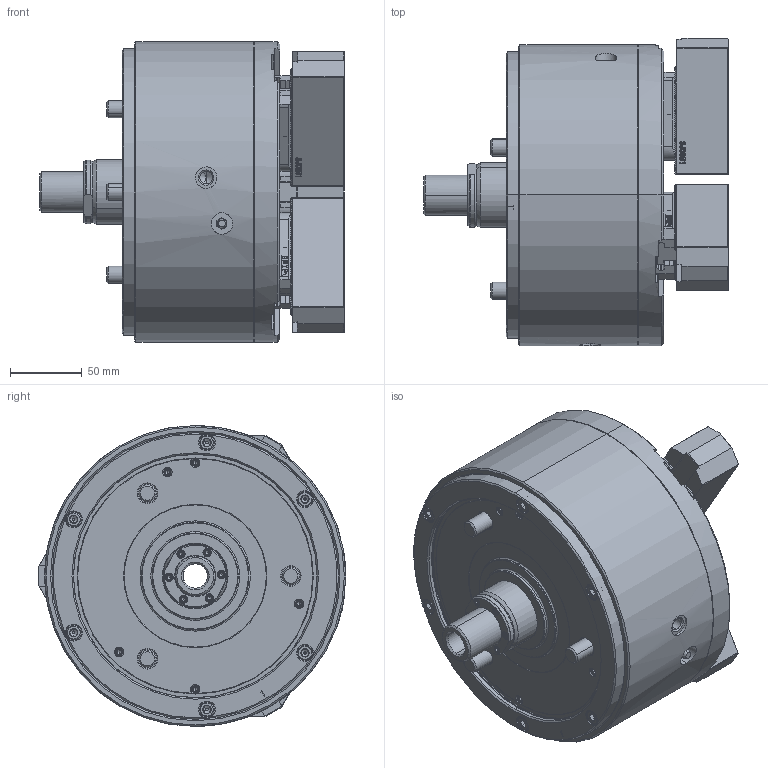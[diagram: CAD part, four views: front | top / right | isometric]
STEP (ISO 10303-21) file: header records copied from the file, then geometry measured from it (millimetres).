
FILE_DESCRIPTION (( 'STEP AP214' ), '1' );
FILE_NAME ('DL208_CL_ID.STEP', '2022-09-07T07:44:58', ( '' ), ( '' ), 'SwSTEP 2.0', 'SolidWorks 2020', '' );
FILE_SCHEMA (( 'AUTOMOTIVE_DESIGN' ));
Length unit declared in the file: millimetre
Products named in the file (5): DL208_CL_ID; 結合DL208_CL_ID^DL208; 0030112030; 61P304291; 61P451466
Assembly tree (13 placements, depth 2):
  DL208_CL_ID
    61P304291  x3
    61P451466  x3
    0030112030  x6
    結合DL208_CL_ID^DL208
Bounding box: 212.8 x 214.51 x 210 mm (x, y, z)
Volume: 4000147.3 mm3; surface area: 329594.5 mm2
Topology: 13 solids, 50 shells, 7386 faces, 20456 edges, 13386 vertices
Faces by surface type: plane 3961, cylinder 1589, bspline 1166, cone 636, torus 34
Entity records: 218433 total; most frequent: CARTESIAN_POINT 82002, ORIENTED_EDGE 31728, DIRECTION 22914, EDGE_CURVE 15864, VERTEX_POINT 10443, LINE 10302, VECTOR 10302, AXIS2_PLACEMENT_3D 6306
